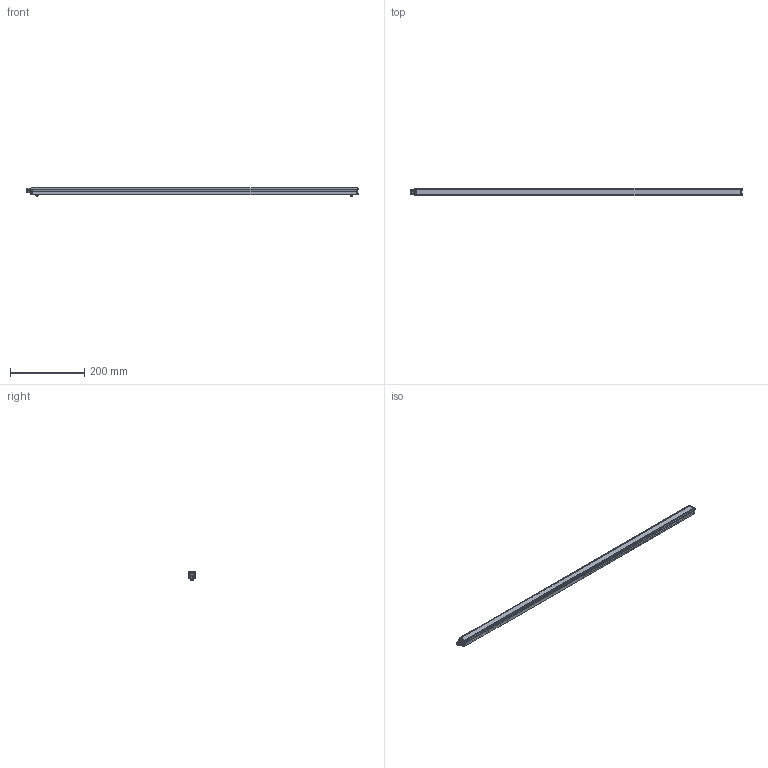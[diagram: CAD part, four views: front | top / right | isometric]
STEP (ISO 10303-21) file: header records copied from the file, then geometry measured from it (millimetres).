
FILE_DESCRIPTION (( 'STEP AP214' ), '1' );
FILE_NAME ('AL126 _NONSEALED__AL12634.stp', '2021-04-29T14:25:23', ( '' ), ( '' ), 'SwSTEP 2.0', 'SolidWorks 2018', '' );
FILE_SCHEMA (( 'AUTOMOTIVE_DESIGN' ));
Length unit declared in the file: inch
Products named in the file (15): 10mm Label (116 126)_Default<As Machined>; 090876; HN-M4_90592A016; 090875; 090889-XX_090889-34; AL126 _NONSEALED__AL12634; 10mm Ai; 093474_093474; 091064_Model_Dome Fittings_Thread Type and Size(Dome)_M10 x 1.5_Hazardous Location-Explosive Proof(ATEX and EExe Versions)_No_; 090877-XX_090877-34; BH-M4x6; 093469_093469; 10mm Swish_Default<As Machined>; 10mm Advanced illumination; 091052 (116 126)
Assembly tree (24 placements, depth 3):
  AL126 _NONSEALED__AL12634
    090889-XX_090889-34
    090877-XX_090877-34
    090875
    090876
    093474_093474  x8
    093469_093469  x2
    091064_Model_Dome Fittings_Thread Type and Size(Dome)_M10 x 1.5_Hazardous Location-Explosive Proof(ATEX and EExe Versions)_No_
    HN-M4_90592A016  x2
    BH-M4x6  x2
    091052 (116 126)
      10mm Label (116 126)_Default<As Machined>
      10mm Ai
      10mm Swish_Default<As Machined>
      10mm Advanced illumination
Bounding box: 892.73 x 20.02 x 24.1 mm (x, y, z)
Volume: 119746.5 mm3; surface area: 170679.4 mm2
Topology: 48 solids, 48 shells, 1877 faces, 4840 edges, 3010 vertices
Faces by surface type: cylinder 934, plane 401, cone 362, bspline 120, torus 60
Entity records: 30293 total; most frequent: CARTESIAN_POINT 10456, ORIENTED_EDGE 4076, DIRECTION 3580, EDGE_CURVE 2038, VERTEX_POINT 1298, AXIS2_PLACEMENT_3D 1276, LINE 1028, VECTOR 1028
